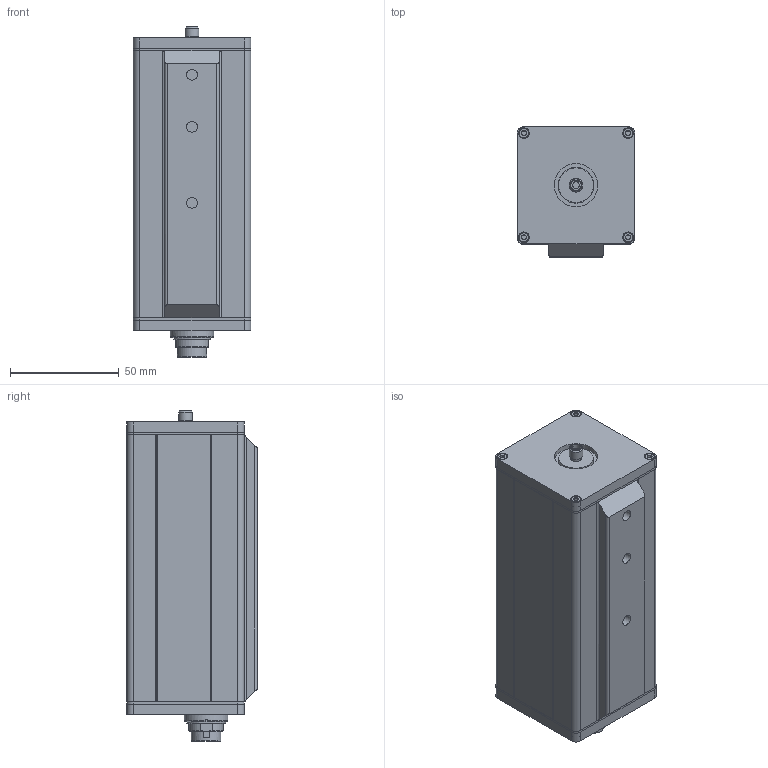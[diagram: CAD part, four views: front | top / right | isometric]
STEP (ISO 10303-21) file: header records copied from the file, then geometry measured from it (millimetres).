
FILE_DESCRIPTION((''),'2;1');
FILE_NAME('C:\Dokumente und Einstellungen\Dr.Maurer\Desktop\Inventor Matthias Kimmerle\KTRD1000\Step Dateien\KTRD1000 Lichtleiter.stp','2021-05-07T10:30:23',('Dr.Maurer'),(''),'Autodesk Inventor 10','Autodesk Inventor 10','');
FILE_SCHEMA(('AUTOMOTIVE_DESIGN { 1 0 10303 214 1 1 1 1 }'));
Length unit declared in the file: millimetre
Products named in the file (8): Gehäuse Lichtleiter; Gehaeuse; dichtung; rueckwand; stecker; frontLL; Innenteil Lichtleiter; 91290A102
Assembly tree (15 placements, depth 2):
  Gehäuse Lichtleiter
    Gehaeuse
    dichtung  x2
    rueckwand
    stecker
    frontLL
    Innenteil Lichtleiter
    91290A102  x8
Bounding box: 54 x 60 x 152 mm (x, y, z)
Volume: 407776.6 mm3; surface area: 68003.6 mm2
Topology: 15 solids, 15 shells, 755 faces, 2669 edges, 2009 vertices
Faces by surface type: cylinder 266, plane 251, bspline 105, cone 103, torus 18, sphere 12
Full cylindrical faces by diameter (mm): 0.6 x12, 1 x12, 1.05 x12, 2.5 x136, 3.18 x1, 4.5 x8, 4.7 x1, 5.3 x1, 6.35 x1, 13.6 x1, 15 x1, 16 x1, 16.5 x1, 20 x3
Entity records: 19195 total; most frequent: CARTESIAN_POINT 9127, ORIENTED_EDGE 2010, DIRECTION 1812, EDGE_CURVE 1005, VERTEX_POINT 774, AXIS2_PLACEMENT_3D 712, EDGE_LOOP 653, FACE_OUTER_BOUND 430
